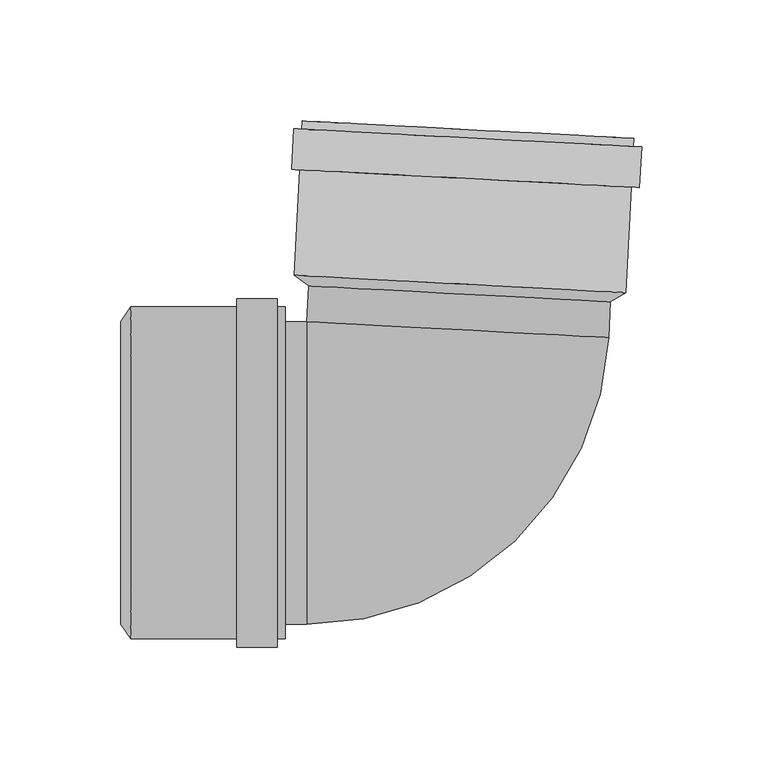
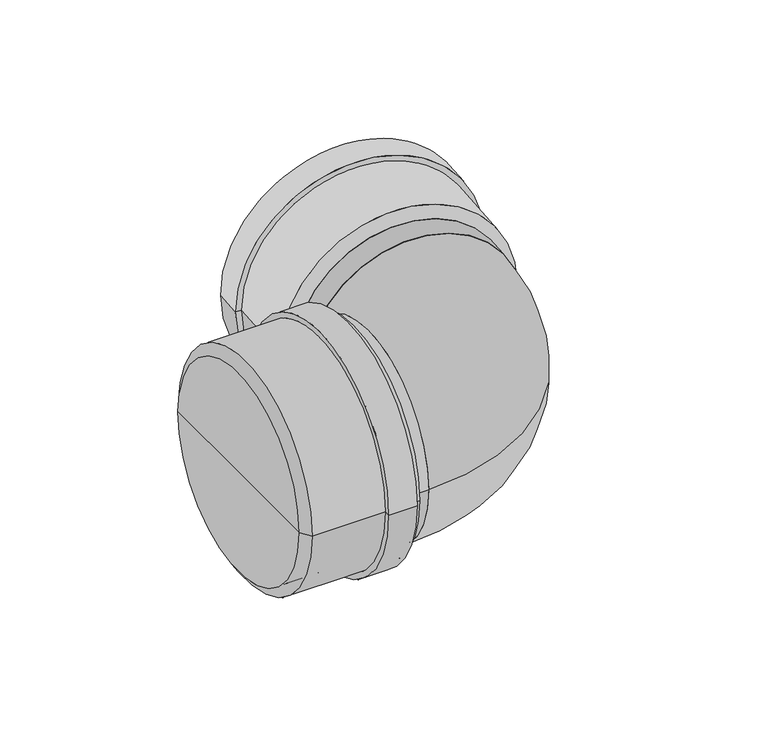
"""IFC4 building model written with IfcOpenShell, lengths in millimetres: pipe fitting geometry, pf_KGB : pf_KGB."""

from ifc_helpers import new_model, si_unit, point, frame, origin, origin_2d, place, context, project, spatial, polyline, circle_curve, ellipse_curve, trimmed, segment, composite_curve, outline, extrude, source, transform, mapped, element, save
from ifc_brep_helpers import plane_surface, cylinder_surface, revolved_surface, advanced_brep


def pipe_fitting_44bcff53(model_context):
    return source(origin(), model_context, "Body", "SolidModel", [
        advanced_brep(
        [(66.2924403, 70.7274513, 0.0), (-58.5362516, 77.2694458, 0.0), (-64.4133143, 81.6830762, 0.0), (72.5986579, 74.502583, 0.0), (3.8780944, 73.9984485, 0.0), (75.9429255, 138.3150103, 0.0), (-61.0690467, 145.4955035, 0.0), (-54.9774065, 145.1762542, 0.0), (69.8512853, 138.6342596, 0.0), (-61.246989, 142.1001631, 0.0), (75.7649832, 134.9196699, 0.0), (-64.6423294, 142.2781053, 0.0), (79.1603236, 134.7417276, 0.0), (-65.5215734, 125.5011291, 0.0), (78.2810796, 117.9647514, 0.0), (-62.126233, 125.3231869, 0.0), (74.8857392, 118.1426937, 0.0), (66.5070177, 74.8218324, 0.0), (-58.3216741, 81.3638269, 0.0), (4.0926718, 78.0928296, 0.0)],
        [
            (0, 1, circle_curve(frame((3.8780944, 73.9984485, 0.0), z_axis=(0.052335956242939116, 0.9986295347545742, 0.0), x_axis=(-0.9986295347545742, 0.052335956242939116, 0.0)), 62.5)),
            (1, 2),
            (2, 3, circle_curve(frame((4.0926718, 78.0928296, 0.0), z_axis=(-0.052335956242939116, -0.9986295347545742, 0.0), x_axis=(-0.9986295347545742, 0.052335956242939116, 0.0)), 68.6)),
            (3, 0),
            (1, 0, circle_curve(frame((3.8780944, 73.9984485, 0.0), z_axis=(0.052335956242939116, 0.9986295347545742, 0.0), x_axis=(-0.9986295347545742, 0.052335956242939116, 0.0)), 62.5)),
            (3, 2, circle_curve(frame((4.0926718, 78.0928296, 0.0), z_axis=(-0.052335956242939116, -0.9986295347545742, 0.0), x_axis=(-0.9986295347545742, 0.052335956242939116, 0.0)), 68.6)),
            (4, 1),
            (0, 4),
            (5, 6, circle_curve(frame((7.4369394, 141.9052569, 0.0), z_axis=(0.052335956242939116, 0.9986295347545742, 0.0), x_axis=(-0.9986295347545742, 0.052335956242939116, 0.0)), 68.6)),
            (6, 7),
            (7, 8, circle_curve(frame((7.4369394, 141.9052569, 0.0), z_axis=(-0.052335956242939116, -0.9986295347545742, 0.0), x_axis=(-0.9986295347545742, 0.052335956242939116, 0.0)), 62.5)),
            (8, 5),
            (9, 10, circle_curve(frame((7.2589971, 138.5099165, 0.0), z_axis=(0.052335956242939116, 0.9986295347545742, 0.0), x_axis=(-0.9986295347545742, 0.052335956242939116, 0.0)), 68.6)),
            (10, 5),
            (5, 6, circle_curve(frame((7.4369394, 141.9052569, 0.0), z_axis=(-0.052335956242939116, -0.9986295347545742, 0.0), x_axis=(-0.9986295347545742, 0.052335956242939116, 0.0)), 68.6)),
            (6, 9),
            (11, 12, circle_curve(frame((7.2589971, 138.5099165, 0.0), z_axis=(0.052335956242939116, 0.9986295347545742, 0.0), x_axis=(-0.9986295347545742, 0.052335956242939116, 0.0)), 72.0)),
            (12, 10),
            (9, 11),
            (13, 14, circle_curve(frame((6.3797531, 121.7329403, 0.0), z_axis=(0.052335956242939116, 0.9986295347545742, 0.0), x_axis=(-0.9986295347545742, 0.052335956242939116, 0.0)), 72.0)),
            (14, 12),
            (11, 13),
            (15, 16, circle_curve(frame((6.3797531, 121.7329403, 0.0), z_axis=(0.052335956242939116, 0.9986295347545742, 0.0), x_axis=(-0.9986295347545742, 0.052335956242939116, 0.0)), 68.6)),
            (16, 14),
            (13, 15),
            (8, 7, circle_curve(frame((7.4369394, 141.9052569, 0.0), z_axis=(-0.052335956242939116, -0.9986295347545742, 0.0), x_axis=(-0.9986295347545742, 0.052335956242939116, 0.0)), 62.5)),
            (10, 9, circle_curve(frame((7.2589971, 138.5099165, 0.0), z_axis=(0.052335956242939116, 0.9986295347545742, 0.0), x_axis=(-0.9986295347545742, 0.052335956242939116, 0.0)), 68.6)),
            (12, 11, circle_curve(frame((7.2589971, 138.5099165, 0.0), z_axis=(0.052335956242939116, 0.9986295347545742, 0.0), x_axis=(-0.9986295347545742, 0.052335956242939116, 0.0)), 72.0)),
            (14, 13, circle_curve(frame((6.3797531, 121.7329403, 0.0), z_axis=(0.052335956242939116, 0.9986295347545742, 0.0), x_axis=(-0.9986295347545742, 0.052335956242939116, 0.0)), 72.0)),
            (16, 15, circle_curve(frame((6.3797531, 121.7329403, 0.0), z_axis=(0.052335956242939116, 0.9986295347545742, 0.0), x_axis=(-0.9986295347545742, 0.052335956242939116, 0.0)), 68.6)),
            (2, 15),
            (16, 3),
            (17, 18, circle_curve(frame((4.0926718, 78.0928296, 0.0), z_axis=(0.052335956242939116, 0.9986295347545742, 0.0), x_axis=(-0.9986295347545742, 0.052335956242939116, 0.0)), 62.5)),
            (18, 19),
            (19, 17),
            (18, 17, circle_curve(frame((4.0926718, 78.0928296, 0.0), z_axis=(0.052335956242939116, 0.9986295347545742, 0.0), x_axis=(-0.9986295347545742, 0.052335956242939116, 0.0)), 62.5)),
            (7, 18),
            (17, 8),
        ],
        [
            revolved_surface(polyline([(-64.4133143, 81.6830762, 0.0), (-58.5362516, 77.2694458, 0.0)]), (3.8780944, 73.9984485, 0.0), (-0.052335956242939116, -0.9986295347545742, 0.0)),
            plane_surface(frame((3.8780944, 73.9984485, 0.0), z_axis=(-0.052335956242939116, -0.9986295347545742, 0.0), x_axis=(-0.9986295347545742, 0.052335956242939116, 0.0))),
            plane_surface(frame((7.4369394, 141.9052569, 0.0), z_axis=(0.052335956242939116, 0.9986295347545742, 0.0), x_axis=(-0.9986295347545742, 0.052335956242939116, 0.0))),
            cylinder_surface(frame((3.8780944, 73.9984485, 0.0), z_axis=(-0.052335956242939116, -0.9986295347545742, 0.0), x_axis=(-0.9986295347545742, 0.052335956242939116, 0.0)), 68.6),
            plane_surface(frame((7.2589971, 138.5099165, 0.0), z_axis=(0.052335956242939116, 0.9986295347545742, 0.0), x_axis=(-0.9986295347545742, 0.052335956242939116, 0.0))),
            cylinder_surface(frame((3.8780944, 73.9984485, 0.0), z_axis=(-0.052335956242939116, -0.9986295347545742, 0.0), x_axis=(-0.9986295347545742, 0.052335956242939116, 0.0)), 72.0),
            plane_surface(frame((6.3797531, 121.7329403, 0.0), z_axis=(-0.052335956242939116, -0.9986295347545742, 0.0), x_axis=(-0.9986295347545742, 0.052335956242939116, 0.0))),
            plane_surface(frame((4.0926718, 78.0928296, 0.0), z_axis=(0.052335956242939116, 0.9986295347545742, 0.0), x_axis=(-0.9986295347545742, 0.052335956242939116, 0.0))),
            revolved_surface(polyline([(-58.321674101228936, 81.3638268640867, 0.0), (-54.977406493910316, 145.17625419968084, 0.0)]), (3.8780944, 73.9984485, 0.0), (-0.052335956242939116, -0.9986295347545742, 0.0)),
        ],
        [
            (0, [[1, 2, 3, 4]]),
            (0, [[5, -4, 6, -2]]),
            (1, [[7, -1, 8]]),
            (1, [[-8, -5, -7]]),
            (2, [[9, 10, 11, 12]]),
            (3, [[13, 14, 15, 16]]),
            (4, [[17, 18, -13, 19]]),
            (5, [[20, 21, -17, 22]]),
            (6, [[23, 24, -20, 25]]),
            (2, [[-15, -12, 26, -10]]),
            (3, [[27, -16, -9, -14]]),
            (4, [[28, -19, -27, -18]]),
            (5, [[29, -22, -28, -21]]),
            (6, [[30, -25, -29, -24]]),
            (3, [[-3, 31, -30, 32]]),
            (3, [[-6, -32, -23, -31]]),
            (7, [[33, 34, 35]]),
            (7, [[36, -35, -34]]),
            (8, [[-11, 37, -33, 38]]),
            (8, [[-26, -38, -36, -37]]),
        ],
    ),
        advanced_brep(
        [(-136.1, -62.5, 0.0), (-136.1, 62.5, 0.0), (-132.0, 68.6, 0.0), (-132.0, -68.6, 0.0), (-136.1, 0.0, 0.0), (-68.1, -68.6, 0.0), (-68.1, 68.6, 0.0), (-68.1, 62.5, 0.0), (-68.1, -62.5, 0.0), (-71.5, 68.6, 0.0), (-71.5, -68.6, 0.0), (-71.5, 72.0, 0.0), (-71.5, -72.0, 0.0), (-88.3, 72.0, 0.0), (-88.3, -72.0, 0.0), (-88.3, 68.6, 0.0), (-88.3, -68.6, 0.0), (-132.0, -62.5, 0.0), (-132.0, 62.5, 0.0), (-132.0, 0.0, 0.0)],
        [
            (0, 1, circle_curve(frame((-136.1, 0.0, 0.0), z_axis=(1.0, 0.0, 0.0), x_axis=(0.0, 1.0, 0.0)), 62.5)),
            (1, 2),
            (2, 3, circle_curve(frame((-132.0, 0.0, 0.0), z_axis=(-1.0, 0.0, 0.0), x_axis=(0.0, 1.0, 0.0)), 68.6)),
            (3, 0),
            (1, 0, circle_curve(frame((-136.1, 0.0, 0.0), z_axis=(1.0, 0.0, 0.0), x_axis=(0.0, 1.0, 0.0)), 62.5)),
            (3, 2, circle_curve(frame((-132.0, 0.0, 0.0), z_axis=(-1.0, 0.0, 0.0), x_axis=(0.0, 1.0, 0.0)), 68.6)),
            (4, 1),
            (0, 4),
            (5, 6, circle_curve(frame((-68.1, 0.0, 0.0), z_axis=(1.0, 0.0, 0.0), x_axis=(0.0, 1.0, 0.0)), 68.6)),
            (6, 7),
            (7, 8, circle_curve(frame((-68.1, 0.0, 0.0), z_axis=(-1.0, 0.0, 0.0), x_axis=(0.0, 1.0, 0.0)), 62.5)),
            (8, 5),
            (9, 10, circle_curve(frame((-71.5, 0.0, 0.0), z_axis=(1.0, 0.0, 0.0), x_axis=(0.0, 1.0, 0.0)), 68.6)),
            (10, 5),
            (5, 6, circle_curve(frame((-68.1, 0.0, 0.0), z_axis=(-1.0, 0.0, 0.0), x_axis=(0.0, 1.0, 0.0)), 68.6)),
            (6, 9),
            (11, 12, circle_curve(frame((-71.5, 0.0, 0.0), z_axis=(1.0, 0.0, 0.0), x_axis=(0.0, 1.0, 0.0)), 72.0)),
            (12, 10),
            (9, 11),
            (13, 14, circle_curve(frame((-88.3, 0.0, 0.0), z_axis=(1.0, 0.0, 0.0), x_axis=(0.0, 1.0, 0.0)), 72.0)),
            (14, 12),
            (11, 13),
            (15, 16, circle_curve(frame((-88.3, 0.0, 0.0), z_axis=(1.0, 0.0, 0.0), x_axis=(0.0, 1.0, 0.0)), 68.6)),
            (16, 14),
            (13, 15),
            (8, 7, circle_curve(frame((-68.1, 0.0, 0.0), z_axis=(-1.0, 0.0, 0.0), x_axis=(0.0, 1.0, 0.0)), 62.5)),
            (10, 9, circle_curve(frame((-71.5, 0.0, 0.0), z_axis=(1.0, 0.0, 0.0), x_axis=(0.0, 1.0, 0.0)), 68.6)),
            (12, 11, circle_curve(frame((-71.5, 0.0, 0.0), z_axis=(1.0, 0.0, 0.0), x_axis=(0.0, 1.0, 0.0)), 72.0)),
            (14, 13, circle_curve(frame((-88.3, 0.0, 0.0), z_axis=(1.0, 0.0, 0.0), x_axis=(0.0, 1.0, 0.0)), 72.0)),
            (16, 15, circle_curve(frame((-88.3, 0.0, 0.0), z_axis=(1.0, 0.0, 0.0), x_axis=(0.0, 1.0, 0.0)), 68.6)),
            (2, 15),
            (16, 3),
            (17, 18, circle_curve(frame((-132.0, 0.0, 0.0), z_axis=(1.0, 0.0, 0.0), x_axis=(0.0, 1.0, 0.0)), 62.5)),
            (18, 19),
            (19, 17),
            (18, 17, circle_curve(frame((-132.0, 0.0, 0.0), z_axis=(1.0, 0.0, 0.0), x_axis=(0.0, 1.0, 0.0)), 62.5)),
            (7, 18),
            (17, 8),
        ],
        [
            revolved_surface(polyline([(-132.0, 68.6, 0.0), (-136.1, 62.5, 0.0)]), (-136.1, 0.0, 0.0), (-1.0, 0.0, 0.0)),
            plane_surface(frame((-136.1, 0.0, 0.0), z_axis=(-1.0, 0.0, 0.0), x_axis=(0.0, 1.0, 0.0))),
            plane_surface(frame((-68.1, 0.0, 0.0), z_axis=(1.0, 0.0, 0.0), x_axis=(0.0, 1.0, 0.0))),
            cylinder_surface(frame((-136.1, 0.0, 0.0), z_axis=(-1.0, 0.0, 0.0), x_axis=(0.0, 1.0, 0.0)), 68.6),
            plane_surface(frame((-71.5, 0.0, 0.0), z_axis=(1.0, 0.0, 0.0), x_axis=(0.0, 1.0, 0.0))),
            cylinder_surface(frame((-136.1, 0.0, 0.0), z_axis=(-1.0, 0.0, 0.0), x_axis=(0.0, 1.0, 0.0)), 72.0),
            plane_surface(frame((-88.3, 0.0, 0.0), z_axis=(-1.0, 0.0, 0.0), x_axis=(0.0, 1.0, 0.0))),
            plane_surface(frame((-132.0, 0.0, 0.0), z_axis=(1.0, 0.0, 0.0), x_axis=(0.0, 1.0, 0.0))),
            revolved_surface(polyline([(-132.0, 62.5, 0.0), (-68.1, 62.5, 0.0)]), (-136.1, 0.0, 0.0), (-1.0, 0.0, 0.0)),
        ],
        [
            (0, [[1, 2, 3, 4]]),
            (0, [[5, -4, 6, -2]]),
            (1, [[7, -1, 8]]),
            (1, [[-8, -5, -7]]),
            (2, [[9, 10, 11, 12]]),
            (3, [[13, 14, 15, 16]]),
            (4, [[17, 18, -13, 19]]),
            (5, [[20, 21, -17, 22]]),
            (6, [[23, 24, -20, 25]]),
            (2, [[-15, -12, 26, -10]]),
            (3, [[27, -16, -9, -14]]),
            (4, [[28, -19, -27, -18]]),
            (5, [[29, -22, -28, -21]]),
            (6, [[30, -25, -29, -24]]),
            (3, [[-3, 31, -30, 32]]),
            (3, [[-6, -32, -23, -31]]),
            (7, [[33, 34, 35]]),
            (7, [[36, -35, -34]]),
            (8, [[-11, 37, -33, 38]]),
            (8, [[-26, -38, -36, -37]]),
        ],
    ),
        extrude(outline(composite_curve([segment(trimmed(circle_curve(origin_2d(), 62.5), [point((0.0, -62.5))], [point((0.0, 62.5))], False, "CARTESIAN"), True, "CONTINUOUS"), segment(trimmed(circle_curve(origin_2d(), 62.5), [point((0.0, 62.5))], [point((0.0, -62.5))], False, "CARTESIAN"), True, "CONTINUOUS")], self_intersect=False)), frame((3.1040605, 59.2290027, 0.0), z_axis=(0.052335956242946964, 0.9986295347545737, 0.0), x_axis=(0.0, 0.0, 1.0)), (0.0, 0.0, 1.0), 14.7897146),
        extrude(outline(composite_curve([segment(trimmed(circle_curve(origin_2d(), 62.5), [point((-62.5, 0.0))], [point((62.5, 0.0))], False, "CARTESIAN"), True, "CONTINUOUS"), segment(trimmed(circle_curve(origin_2d(), 62.5), [point((62.5, 0.0))], [point((-62.5, 0.0))], False, "CARTESIAN"), True, "CONTINUOUS")], self_intersect=False)), frame((-132.0, 0.0, 0.0), z_axis=(1.0, 0.0, 0.0), x_axis=(0.0, 1.0, 0.0)), (0.0, 0.0, 1.0), 72.6897146),
        advanced_brep(
        [(-59.3102854, -62.5, 0.0), (-59.3102854, 62.5, 0.0), (65.5184064, 55.9580055, 0.0)],
        [
            (0, 1, circle_curve(frame((-59.3102854, 0.0, 0.0), z_axis=(-1.0, 0.0, 0.0), x_axis=(0.0, 1.0, 0.0)), 62.5)),
            (1, 0, circle_curve(frame((-59.3102854, 0.0, 0.0), z_axis=(-1.0, 0.0, 0.0), x_axis=(0.0, 1.0, 0.0)), 62.5)),
            (2, 1, circle_curve(frame((3.1040605, 59.2290027, 0.0), z_axis=(0.05233595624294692, 0.9986295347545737, 0.0), x_axis=(-0.9986295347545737, 0.05233595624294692, 0.0)), 62.5)),
            (1, 2, circle_curve(frame((3.1040605, 59.2290027, 0.0), z_axis=(0.05233595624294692, 0.9986295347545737, 0.0), x_axis=(-0.9986295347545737, 0.05233595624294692, 0.0)), 62.5)),
            (2, 0, circle_curve(frame((-59.3102854, 62.5, 0.0), z_axis=(0.0, 0.0, -1.0), x_axis=(0.0, -1.0, 0.0)), 125.0)),
        ],
        [
            plane_surface(frame((-59.3102854, 62.5, -14.8), z_axis=(-1.0, 0.0, 0.0), x_axis=(0.0, -1.0, 0.0))),
            plane_surface(frame((-59.3102854, 62.5, -14.8), z_axis=(0.052335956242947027, 0.9986295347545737, 0.0), x_axis=(0.9986295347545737, -0.052335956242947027, 0.0))),
            revolved_surface(trimmed(ellipse_curve(frame((-59.3102854, 0.0, 0.0), z_axis=(1.0, 0.0, 0.0), x_axis=(0.0, 1.0, 0.0)), 62.5, 62.5), [point((-59.3102854, -62.5, 0.0))], [point((-59.3102854, 62.5, 0.0))], True, "CARTESIAN"), (-59.3102854, 62.5, -14.8), (0.0, 0.0, -1.0)),
            revolved_surface(trimmed(ellipse_curve(frame((-59.3102854, 0.0, 0.0), z_axis=(1.0, 0.0, 0.0), x_axis=(0.0, 1.0, 0.0)), 62.5, 62.5), [point((-59.3102854, 62.5, 0.0))], [point((-59.3102854, -62.5, 0.0))], True, "CARTESIAN"), (-59.3102854, 62.5, -14.8), (0.0, 0.0, -1.0)),
        ],
        [
            (0, [[1, 2]]),
            (1, [[3, 4]]),
            (2, [[5, -2, -3]]),
            (3, [[-1, -5, -4]]),
        ],
    ),
    ])


if __name__ == "__main__":
    model = new_model("IFC4")
    model_context = context("Model", 3, world=origin())
    ifc_project = project(units=[si_unit("LENGTHUNIT", "METRE", prefix="MILLI")], contexts=[model_context])
    site = spatial("IfcSite", under=ifc_project)
    building = spatial("IfcBuilding", under=site)
    placement = place(None, origin())
    pipe_fitting_shape = pipe_fitting_44bcff53(model_context)
    element("IfcPipeFitting", 1, ObjectType="pf_KGB : pf_KGB", at=placement, inside=building, context=model_context, shape_type="MappedRepresentation", body=[
        mapped(pipe_fitting_shape, transform((0.0, 0.0, 0.0), x_axis=(1.0, 0.0, 0.0), y_axis=(0.0, 1.0, 0.0), z_axis=(0.0, 0.0, 1.0))),
    ])
    save(model, "model.ifc")
